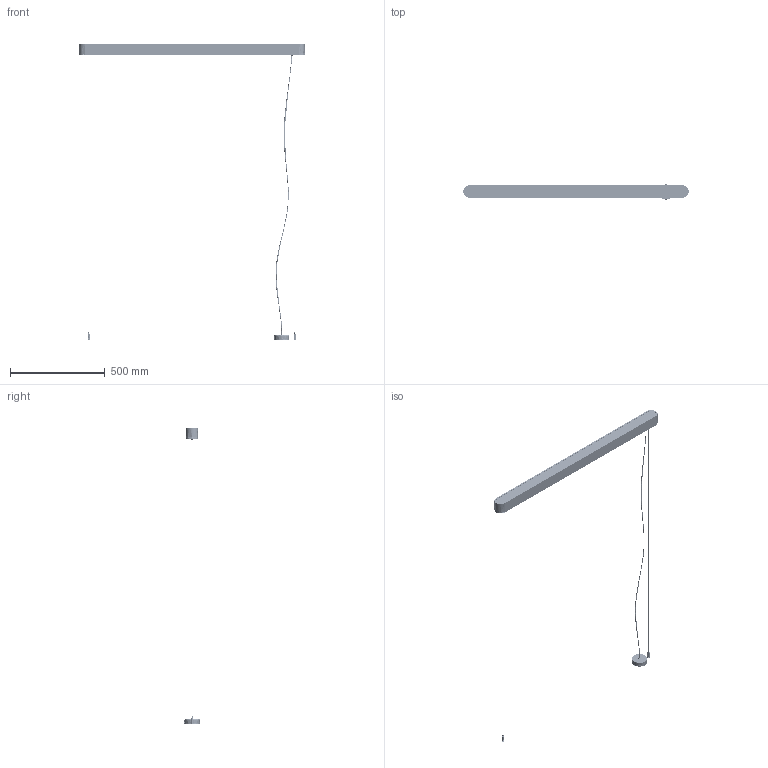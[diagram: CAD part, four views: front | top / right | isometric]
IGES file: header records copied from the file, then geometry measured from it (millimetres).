
Start section: SolidWorks IGES file using analytic representation for surfaces
Global section: file name: \\DC2003\projekty\soft\Profil 3D\Gotowe softy\SOFT 1200_zwis.IGS; native system: SolidWorks 2016; preprocessor: SolidWorks 2016; author: Asia; date: 160711.124324; units: millimetre
Bounding box: 1191.75 x 83.45 x 1565.65 mm (x, y, z)
Surface area: 1115352.5 mm2 (no closed solid volume)
Topology: 0 solids, 0 shells, 6890 faces, 63359 edges, 63321 vertices
Faces by surface type: bspline 5007, revolution 1883
